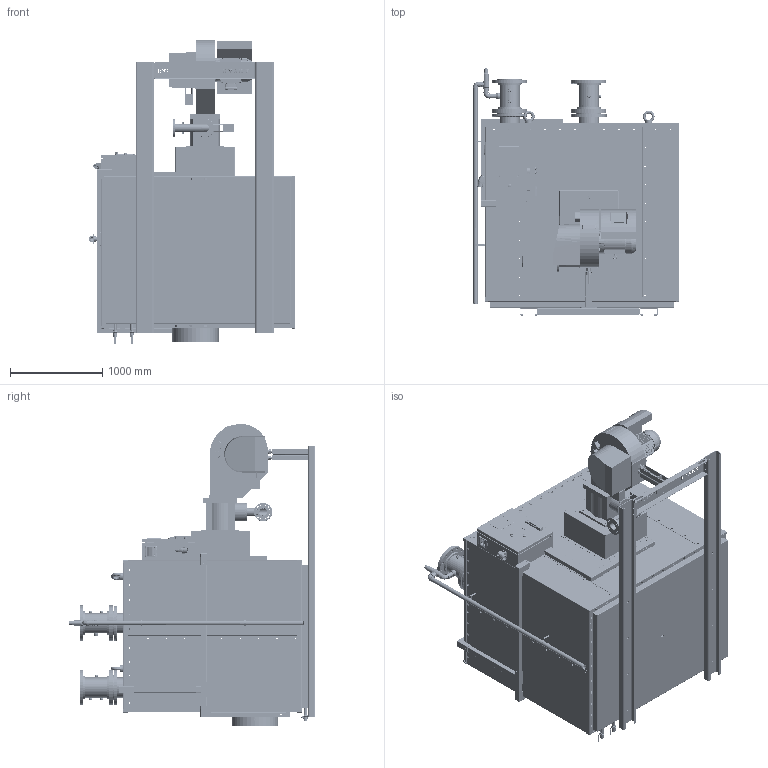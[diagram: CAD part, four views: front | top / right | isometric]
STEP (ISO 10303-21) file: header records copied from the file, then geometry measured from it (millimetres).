
FILE_DESCRIPTION (( 'STEP AP214' ), '1' );
FILE_NAME ('CBRN-SC7-V1.STEP', '2024-04-17T12:16:45', ( '' ), ( '' ), 'SwSTEP 2.0', 'SolidWorks 2020', '' );
FILE_SCHEMA (( 'AUTOMOTIVE_DESIGN' ));
Length unit declared in the file: millimetre
Products named in the file (164): CBR-SEP-V4 (25) -03-10; CBRN-SC7-V1-06; xb4_ba31_01; bmx-17-w-PG29; CBRN-SC7-V1-01-08; CBR-SEP-V4 (25) -03-06; CBRN-SC7-V1-06-07; hex nut style 2 gradeab_din_Hexagon Nut ISO 4033 - M30 - W - N; CBRN-SC7-V1-02-09; CBRN-SC7-V1-04-02; CBRN-SC7-V1-02-14; CBRN-SC7-V1-04-08; CBRN-SC7-V1-02; CBR-SEP-V4 (25) -03-01; xb4_ba31; CBRN-SC7-V1-04-12; CBRN-SC7-V1-01-05; CBR-SEP-V4 (25) -02-08; CBRN-SC7-V1-02-18; xb4_bd21_08; CBRN-SC7-V1-07-03; CBRN-SC7-V1-01-11; CBRN-SC7-V1; CBRN-SC7-V1-06-13; xb4_bd21_03; CBRN-SC7-V1-01-19; ''RGB-M-305; hg0400404_01; xb4_bd21_02; CBRN-SC7-V1-06-11; CBR-SEP-V4 (25) -02-09; CBRN-SC7-V1-02-04; Label_Emergency^Door_Electrical panel; hg0400404_02; CBRN-SC7-V1-02-21; CBRN-SC7-V1-09-01; 2499419_02; CBRN-SC7-V1-02-02; xb4_bs84441_01; CBR-SEP-V4 (25) -02-03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
Assembly tree (227 placements, depth 6):
  CBRN-SC7-V1
    CBRN-SC7-V1-02
      CBRN-SC7-V1-03
        CBRN-SC7-V1-04
          CBRN-SC7-V1-04-01
          CBRN-SC7-V1-04-02
          CBRN-SC7-V1-04-08
          CBRN-SC7-V1-07
            CBRN-SC7-V1-07-04
            CBRN-SC7-V1-07-01
            CBRN-SC7-V1-07-02  x2
            CBRN-SC7-V1-07-03  x2
            CBRN-SC7-V1-07-05  x4
          CBRN-SC7-V1-04-12  x4
          CBRN-SC7-V1-04-16
          CBRN-SC7-V1-06
            CBRN-SC7-V1-06-04
            CBRN-SC7-V1-06-01
            CBRN-SC7-V1-06-02  x2
            CBRN-SC7-V1-06-03  x2
            CBRN-SC7-V1-06-05
            CBRN-SC7-V1-06-07_03
            CBRN-SC7-V1-06-09  x2
            CBRN-SC7-V1-06-08
            CBRN-SC7-V1-06-10
            CBRN-SC7-V1-06-07
            CBRN-SC7-V1-06-11  x2
            CBRN-SC7-V1-06-12  x2
            CBRN-SC7-V1-06-06  x2
            CBRN-SC7-V1-06-13
          CBRN-SC7-V1-09  x2
            CBRN-SC7-V1-09-01
            CBRN-SC7-V1-09-02
        CBRN-SC7-V1-03-07
      CBRN-SC7-V1-02-01
      CBRN-SC7-V1-02-02
      CBRN-SC7-V1-02-03
      CBRN-SC7-V1-02-04
      CBRN-SC7-V1-02-05
      CBRN-SC7-V1-02-06
      CBRN-SC7-V1-02-09  x3
      CBRN-SC7-V1-02-10  x3
      CBRN-SC7-V1-02-11  x2
      CBRN-SC7-V1-02-07_02
      CBRN-SC7-V1-02-12  x2
      CBRN-SC7-V1-02-13  x2
      CBRN-SC7-V1-02-14  x8
      CBRN-SC7-V1-02-15  x2
      CBRN-SC7-V1-02-16  x2
      CBRN-SC7-V1-02-08  x2
      CBRN-SC7-V1-02-19  x4
      CBRN-SC7-V1-02-18  x4
      CBRN-SC7-V1-02-20  x2
      CBRN-SC7-V1-02-07_03
      CBRN-SC7-V1-02-21
    eyebolt580_din_Eyebolt DIN 358-M36-N  x4
    CBRN-SC7-V1-01-02
    CBRN-SC7-V1-01-04  x2
    CBRN-SC7-V1-01-05
    CBRN-SC7-V1-01-06
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Bounding box: 2238.06 x 2677.25 x 3294.7 mm (x, y, z)
Volume: 378546516.9 mm3; surface area: 87523356.8 mm2
Topology: 301 solids, 351 shells, 35544 faces, 96384 edges, 62017 vertices
Faces by surface type: plane 18542, cylinder 7788, bspline 6718, cone 1471, torus 875, sphere 150
Entity records: 1286024 total; most frequent: CARTESIAN_POINT 594656, ORIENTED_EDGE 157780, DIRECTION 109682, EDGE_CURVE 78950, VERTEX_POINT 50890, LINE 38550, VECTOR 38550, AXIS2_PLACEMENT_3D 35566
